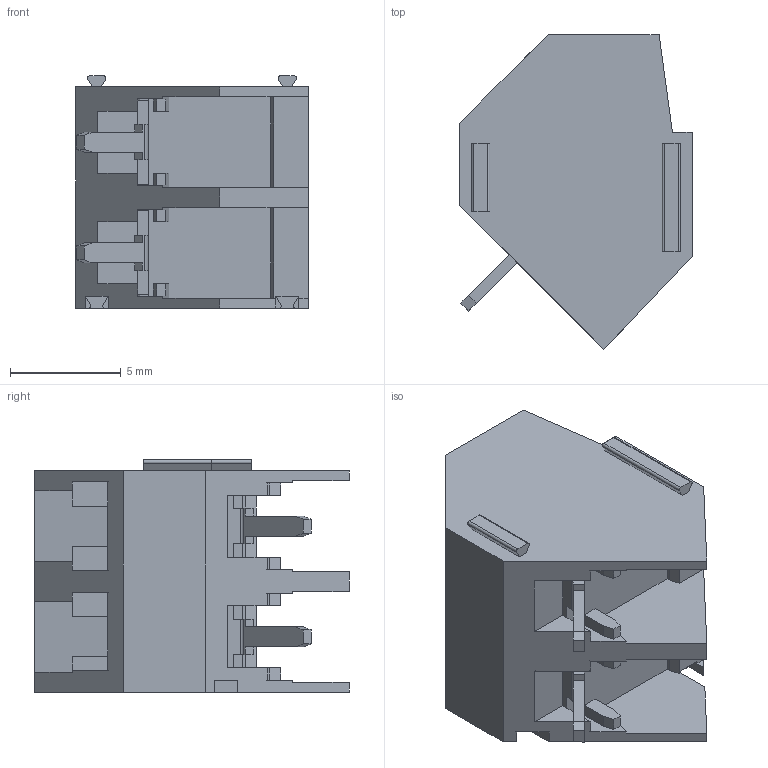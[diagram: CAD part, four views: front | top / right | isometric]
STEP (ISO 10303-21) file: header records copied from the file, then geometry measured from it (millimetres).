
FILE_DESCRIPTION (( 'STEP AP214' ), '1' );
FILE_NAME ('140-C-111-02.STEP', '2007-11-02T14:29:02', ( 'weco' ), ( 'weco' ), 'SwSTEP 2.0', 'SolidWorks 2007', '' );
FILE_SCHEMA (( 'AUTOMOTIVE_DESIGN' ));
Length unit declared in the file: millimetre
Products named in the file (1): 140-C-111-02
Bounding box: 10.5 x 14.2 x 10.5 mm (x, y, z)
Volume: 719 mm3; surface area: 1041.6 mm2
Topology: 1 solids, 1 shells, 282 faces, 806 edges, 524 vertices
Faces by surface type: plane 230, cylinder 36, bspline 10, cone 6
Entity records: 9395 total; most frequent: CARTESIAN_POINT 2053, ORIENTED_EDGE 1612, DIRECTION 1408, EDGE_CURVE 806, LINE 678, VECTOR 678, VERTEX_POINT 524, AXIS2_PLACEMENT_3D 365
